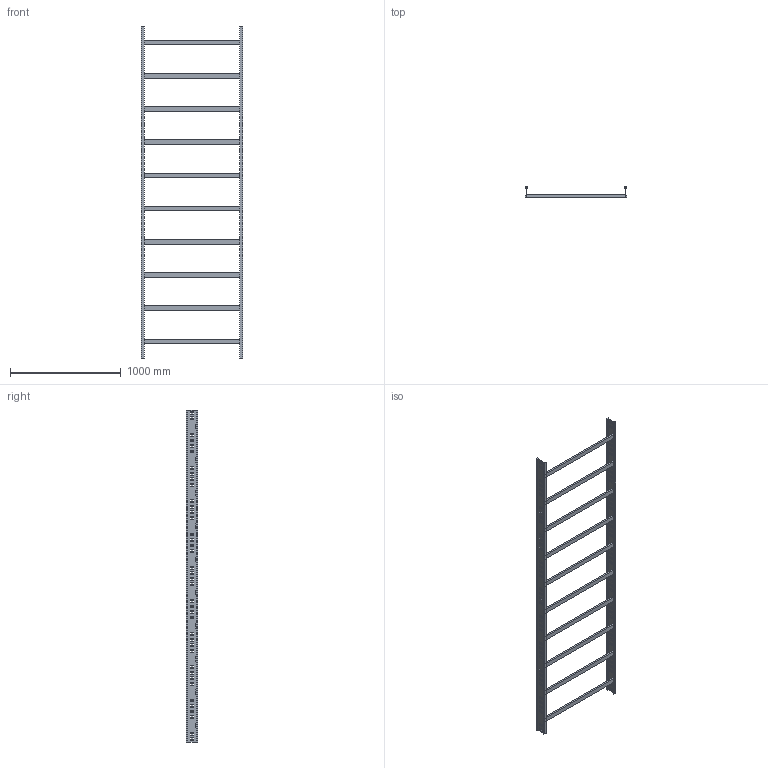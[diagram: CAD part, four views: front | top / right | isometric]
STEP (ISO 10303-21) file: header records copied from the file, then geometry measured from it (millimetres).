
FILE_DESCRIPTION (( 'STEP AP214' ), '1' );
FILE_NAME ('01S3D900.step', '2025-02-21T16:20:04', ( '' ), ( '' ), 'SwSTEP 2.0', 'SolidWorks 2023', '' );
FILE_SCHEMA (( 'AUTOMOTIVE_DESIGN' ));
Length unit declared in the file: millimetre
Products named in the file (3): TRAVERSINO_900; 01S3D900; LONGH.H100
Assembly tree (12 placements, depth 2):
  01S3D900
    LONGH.H100  x2
    TRAVERSINO_900  x10
Bounding box: 918 x 100 x 3000 mm (x, y, z)
Volume: 10393200 mm3; surface area: 2830011 mm2
Topology: 12 solids, 12 shells, 728 faces, 2112 edges, 1408 vertices
Faces by surface type: plane 728
Entity records: 11620 total; most frequent: CARTESIAN_POINT 2035, ORIENTED_EDGE 2016, DIRECTION 1718, EDGE_CURVE 1008, LINE 1008, VECTOR 1008, VERTEX_POINT 672, EDGE_LOOP 500
